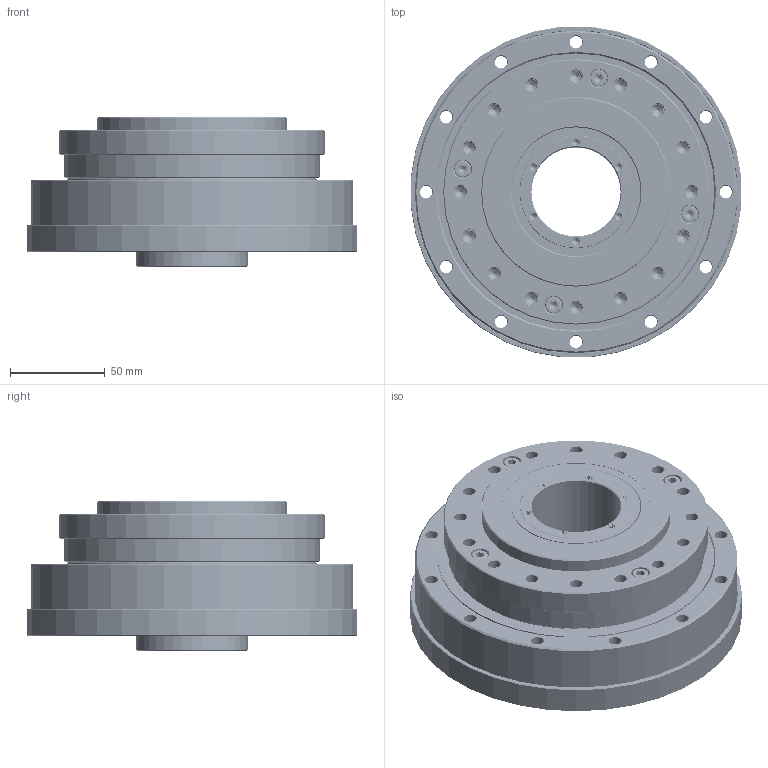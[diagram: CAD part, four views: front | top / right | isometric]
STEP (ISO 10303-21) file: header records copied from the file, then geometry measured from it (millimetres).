
FILE_DESCRIPTION(/* description */ (''),/* implementation_level */ '2;1');
FILE_NAME(/* name */ 'LHT-40-XX-U-III.stp',/* time_stamp */ '2023-07-29T10:54:51+08:00',/* author */ (''),/* organization */ (''),/* preprocessor_version */ 'ST-DEVELOPER v16.7',/* originating_system */ 'SIEMENS PLM Software NX 12.0',/* authorisation */ '');
FILE_SCHEMA (('AUTOMOTIVE_DESIGN { 1 0 10303 214 3 1 1 1 }'));
Products named in the file (21): EB7310015-40KC-01; EB7310015-40KC-46; TC-132x146x7; SC-59x68x5; SC-60x78x9; GB-T70.1-2000,M5x25; GB-T276_60000_2RZ-1994,61912_2RZ; GB-T276_60000_2RZ-1994,61812_2RZ; LHT-40-00-III下壳体; LHT-40-00-III上壳体; LHT-40-XX-III; 内六角平圆头螺钉M4x12; 内六角平圆头螺钉M4x10; O-108x1.78; O-143x2; GB-T70.1-2000,M5x16; 刚轮LHT-40; 柔轮LHT-40; EB7310015-40KC; 交叉轴承LHT-40_MODEL; LHT-40-XX-U-III
Assembly tree (36 placements, depth 3):
  LHT-40-XX-U-III
    交叉轴承LHT-40_MODEL
      TC-132x146x7
    柔轮LHT-40
    刚轮LHT-40
    EB7310015-40KC
      EB7310015-40KC-46
      EB7310015-40KC-01
    GB-T70.1-2000,M5x16  x4
    O-143x2
    O-108x1.78
    内六角平圆头螺钉M4x10  x6
    内六角平圆头螺钉M4x12  x6
    LHT-40-XX-III
    LHT-40-00-III上壳体
    LHT-40-00-III下壳体
    GB-T276_60000_2RZ-1994,61812_2RZ
    GB-T276_60000_2RZ-1994,61912_2RZ
    GB-T70.1-2000,M5x25  x4
    SC-60x78x9
    SC-59x68x5
Bounding box: 174.33 x 174.33 x 79 mm (x, y, z)
Volume: 944936.1 mm3; surface area: 448348.7 mm2
Topology: 110 solids, 110 shells, 1683 faces, 3907 edges, 2379 vertices
Faces by surface type: cone 522, cylinder 485, plane 465, torus 118, sphere 67, bspline 24, revolution 2
Full cylindrical faces by diameter (mm): 3.3 x144, 3.838 x12, 4.2 x8, 4.5 x18, 4.826 x8, 5 x16, 5.5 x12, 6.5 x56, 6.6 x12, 7 x12, 8 x6, 8.5 x8, 9.5 x4, 10 x4, 47 x2, 47.3 x1, 57 x1, 59 x2, 59.5 x2, 60 x6, 62.5 x1, 65 x1, 66 x2, 68 x2, 68.334 x2, 71 x1, 72 x2, 73 x6, 76.666 x2, 77.966 x4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
Entity records: 68026 total; most frequent: CARTESIAN_POINT 44728, DIRECTION 4840, ORIENTED_EDGE 3186, AXIS2_PLACEMENT_3D 2325, EDGE_LOOP 2006, FACE_BOUND 1853, EDGE_CURVE 1593, VERTEX_POINT 1432
